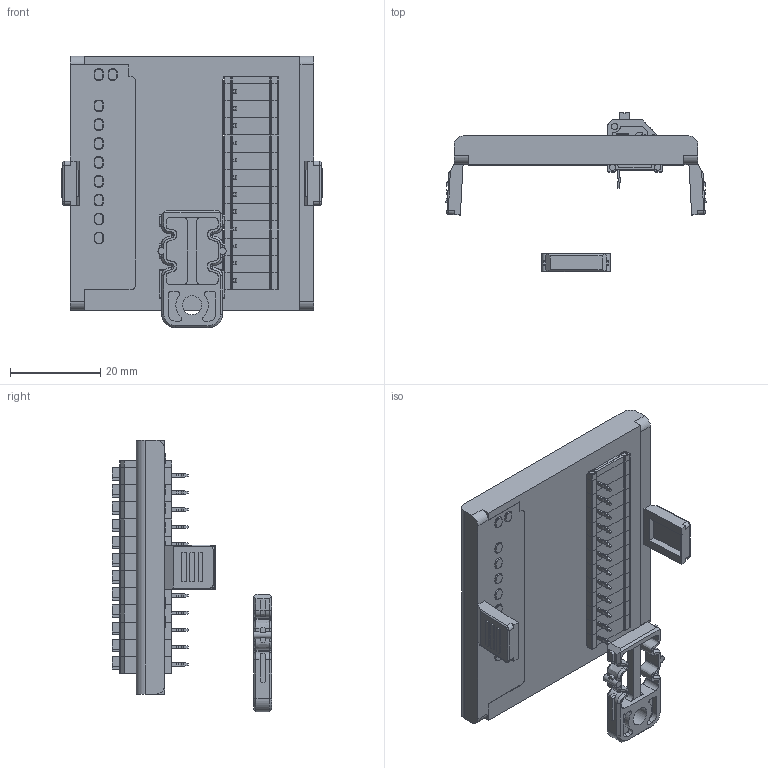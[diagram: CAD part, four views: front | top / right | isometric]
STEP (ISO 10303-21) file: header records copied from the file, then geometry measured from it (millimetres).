
FILE_DESCRIPTION(/* description */ (''),/* implementation_level */ '2;1');
FILE_NAME(/* name */ 'RS-欧式端子-单排IO.stp',/* time_stamp */ '2025-10-29T09:23:36+08:00',/* author */ (''),/* organization */ (''),/* preprocessor_version */ 'ST-DEVELOPER v16',/* originating_system */ 'SIEMENS PLM Software NX 10.0',/* authorisation */ '');
FILE_SCHEMA (('AUTOMOTIVE_DESIGN { 1 0 10303 214 3 1 1 1 }'));
Products named in the file (1): chao8E5828D9vbkv
Bounding box: 57.58 x 35.31 x 60.12 mm (x, y, z)
Volume: 22299.4 mm3; surface area: 15799 mm2
Topology: 17 solids, 17 shells, 1721 faces, 4731 edges, 3094 vertices
Faces by surface type: plane 1107, cylinder 421, cone 146, bspline 43, torus 4
Full cylindrical faces by diameter (mm): 4.2 x1
Entity records: 57492 total; most frequent: CARTESIAN_POINT 13661, ORIENTED_EDGE 9458, DIRECTION 8763, EDGE_CURVE 4729, LINE 3217, VECTOR 3217, VERTEX_POINT 3093, AXIS2_PLACEMENT_3D 2773
